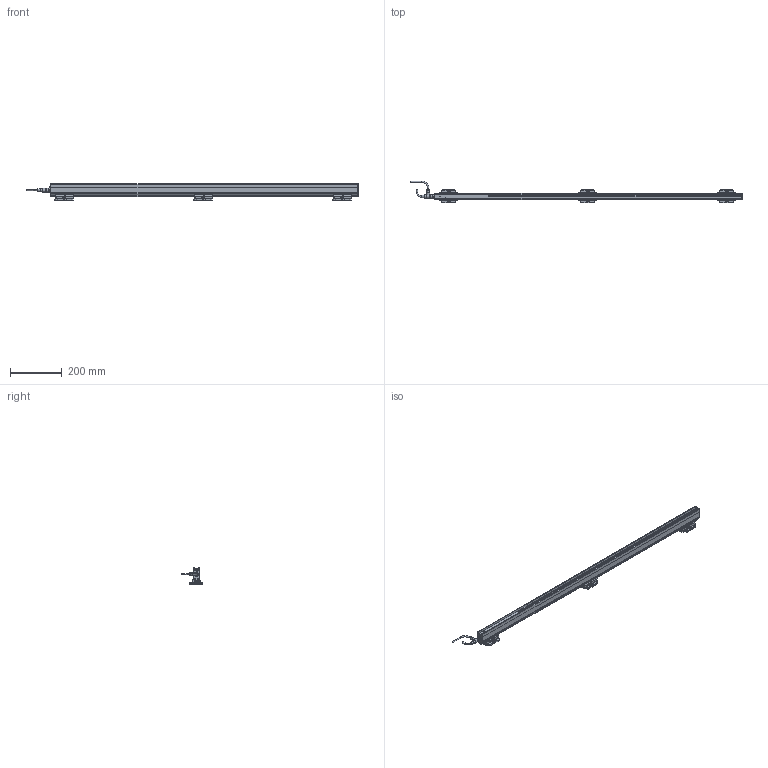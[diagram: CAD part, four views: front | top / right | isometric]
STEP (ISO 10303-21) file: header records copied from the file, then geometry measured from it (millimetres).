
FILE_DESCRIPTION(('Bauteilbeschreibung','HiCAD-Model','HiCAD-STEP-TRANSLATION','Bauteilbeschreibung'),'2;1');
FILE_NAME('PERFORMAXIQEASY_1110-1200_3D.STP','2014-03-05T11:39:32+00:00',('Konstrukteur'),('Konstrukteur Firma GmbH'),' HiCAD 2011, Step 1600.0 ','HiCAD 2011','confidential');
FILE_SCHEMA(('AUTOMOTIVE_DESIGN { 1 2 10303 214 0 1 1 1 }'));
Products named in the file (43): PERFORMAXIQEASY_1110_1200_3D; A_PERFORMAX IQ EASY 1110_1200; A_PERFORMAX IQ EASY SPEED; A_CAP DE; A_CAP CE_5; GROUP; PIN; GROUP0; PIN0; LED_2C_3MM; LED02C03MM; A519020315_CONNECTOR APPLIANCE; A_INSERT; A_CONTACTS; A_HOUSING; A_PROFILE; A_POTTING; A532000100_BRACKET BARS_ MOUNT; A_SIDE PIECE; A0SIDE0PIECE; A_BRACKET SMALL; A_SLIDE PIECE; A5320001000BRACKET0BARS00MOUNT; A0SIDE0PIECE0; A0SIDE0PIECE1; A0BRACKET0SMALL; A0SLIDE0PIECE; A5320001000BRACKET0BARS00MOUNT0; A0SIDE0PIECE2; A0SIDE0PIECE3; A0BRACKET0SMALL0; A0SLIDE0PIECE0; A_CONNECTOR STRAIGHT; EXTRUDED SOLID_0; DRAAD GEBOGEN; REVOLVED SOLID_1; REVOLVED SOLID_3; A_CONNECTOR ANGLED; REVOLVED0SOLID01; EXTRUDED0SOLID00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
Assembly tree (42 placements, depth 5):
  PERFORMAXIQEASY_1110_1200_3D
    A_PERFORMAX IQ EASY 1110_1200
      A_PERFORMAX IQ EASY SPEED
        A_CAP DE
        A_CAP CE_5
        GROUP
          PIN
        GROUP0
          PIN0
        LED_2C_3MM
        LED02C03MM
        A519020315_CONNECTOR APPLIANCE
          A_INSERT
          A_CONTACTS
          A_HOUSING
        A_PROFILE
        A_POTTING
      A532000100_BRACKET BARS_ MOUNT
        A_SIDE PIECE
        A0SIDE0PIECE
        A_BRACKET SMALL
        A_SLIDE PIECE
      A5320001000BRACKET0BARS00MOUNT
        A0SIDE0PIECE0
        A0SIDE0PIECE1
        A0BRACKET0SMALL
        A0SLIDE0PIECE
      A5320001000BRACKET0BARS00MOUNT0
        A0SIDE0PIECE2
        A0SIDE0PIECE3
        A0BRACKET0SMALL0
        A0SLIDE0PIECE0
      A_CONNECTOR STRAIGHT
        EXTRUDED SOLID_0
        DRAAD GEBOGEN
        REVOLVED SOLID_1
        REVOLVED SOLID_3
      A_CONNECTOR ANGLED
        REVOLVED0SOLID01
        EXTRUDED0SOLID00
        C_EDGE SWEEP_0
        REVOLVED SOLID_2
        REVOLVED0SOLID03
Bounding box: 1277.89 x 84.28 x 63.13 mm (x, y, z)
Volume: 1265913.8 mm3; surface area: 334091.6 mm2
Topology: 37 solids, 37 shells, 2679 faces, 6860 edges, 4096 vertices
Faces by surface type: cylinder 1117, plane 1033, sphere 167, torus 158, bspline 128, cone 76
Full cylindrical faces by diameter (mm): 0.8 x10, 1 x5, 2.387 x6, 3 x15, 3.1 x1, 4.2 x2, 5 x4, 5.5 x15, 8 x2, 8.2 x1, 8.4 x2, 8.945 x1, 9 x2, 10.2 x1, 10.5 x3, 11 x1, 12 x3, 12.8 x1, 13.8 x4, 14.5 x3
Entity records: 123325 total; most frequent: CARTESIAN_POINT 28458, DIRECTION 13337, ORIENTED_EDGE 12962, EDGE_CURVE 6481, COLOUR_RGB 6168, PRESENTATION_STYLE_ASSIGNMENT 6168, OVER_RIDING_STYLED_ITEM 6136, CURVE_STYLE 6131
